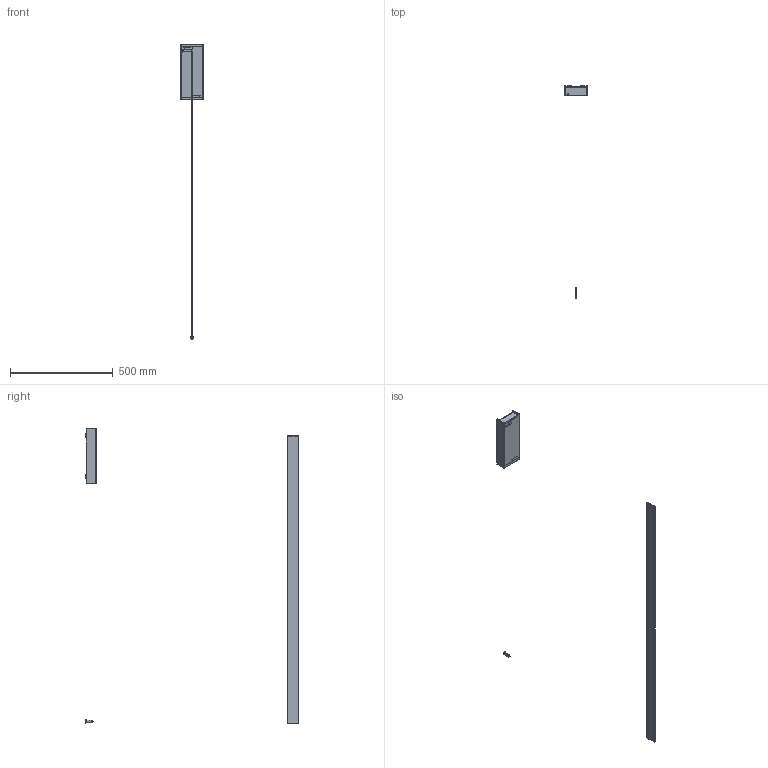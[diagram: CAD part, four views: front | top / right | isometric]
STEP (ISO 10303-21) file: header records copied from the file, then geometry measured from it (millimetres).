
FILE_DESCRIPTION(/* description */ (''),/* implementation_level */ '2;1');
FILE_NAME(/* name */ 'SOTTILE 1.stp',/* time_stamp */ '2024-02-19T15:22:59+01:00',/* author */ ('n.bisotti'),/* organization */ (''),/* preprocessor_version */ 'ST-DEVELOPER v19.2',/* originating_system */ 'Autodesk Inventor 2023',/* authorisation */ '');
FILE_SCHEMA (('AUTOMOTIVE_DESIGN { 1 0 10303 214 3 1 1 }'));
Length unit declared in the file: centimetre
Products named in the file (1): Parte1
Bounding box: 108 x 1035 x 1438 mm (x, y, z)
Volume: 114039.1 mm3; surface area: 518719.9 mm2
Topology: 9 solids, 12 shells, 381 faces, 924 edges, 608 vertices
Faces by surface type: plane 219, bspline 92, cylinder 47, torus 17, cone 6
Full cylindrical faces by diameter (mm): 2.5 x1, 4 x1, 4.25 x1, 4.917 x1, 6 x1, 7 x1, 7.11 x2, 7.5 x1, 8.5 x1, 8.917 x1, 10 x1, 12 x2, 16 x1
Entity records: 11818 total; most frequent: CARTESIAN_POINT 3094, ORIENTED_EDGE 1832, DIRECTION 1475, EDGE_CURVE 924, VERTEX_POINT 608, LINE 585, VECTOR 585, AXIS2_PLACEMENT_3D 445
